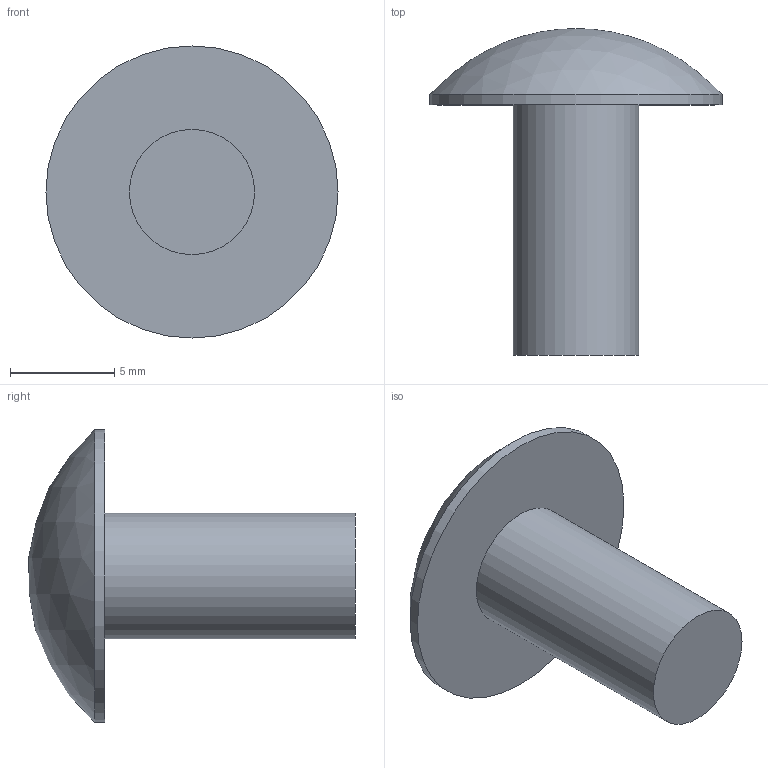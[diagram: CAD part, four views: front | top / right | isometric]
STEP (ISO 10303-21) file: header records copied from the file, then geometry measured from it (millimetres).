
FILE_DESCRIPTION((''),'2;1');
FILE_NAME('C:\Documents and Settings\AMS8\デスクトップ\TSB-06.stp','2015-09-07T09:06:02',('AMS8'),(''),'Autodesk Inventor 2008','Autodesk Inventor 2008','');
FILE_SCHEMA(('AUTOMOTIVE_DESIGN { 1 0 10303 214 1 1 1 1 }'));
Length unit declared in the file: millimetre
Products named in the file (1): TSB-06
Bounding box: 14 x 15.66 x 14 mm (x, y, z)
Volume: 679.7 mm3; surface area: 588.2 mm2
Topology: 1 solids, 1 shells, 5 faces, 6 edges, 4 vertices
Faces by surface type: cylinder 2, plane 2, sphere 1
Full cylindrical faces by diameter (mm): 6 x1, 14 x1
Entity records: 134 total; most frequent: DIRECTION 20, CARTESIAN_POINT 14, AXIS2_PLACEMENT_3D 10, ORIENTED_EDGE 8, EDGE_LOOP 8, STYLED_ITEM 6, FACE_OUTER_BOUND 5, ADVANCED_FACE 5
